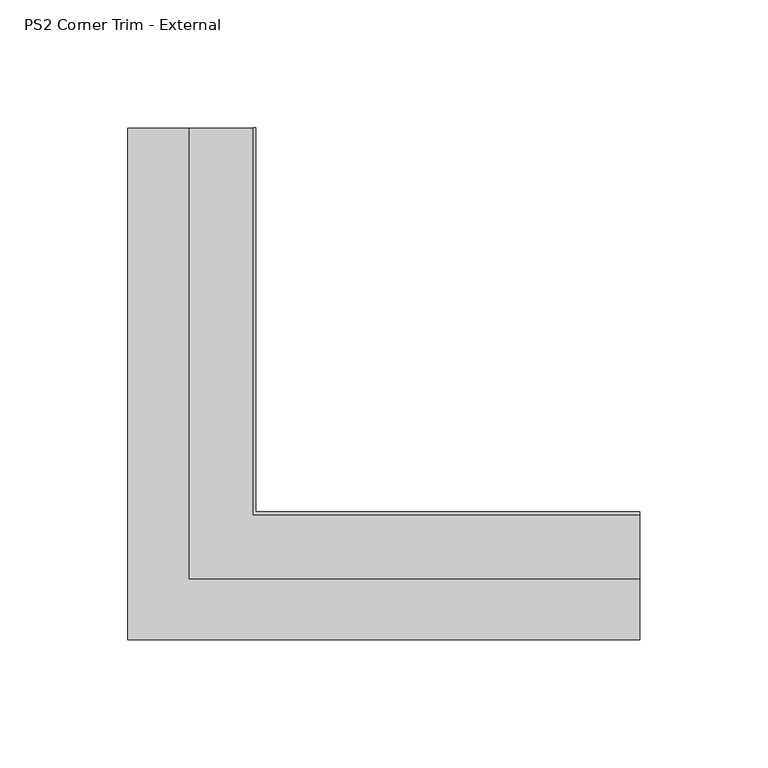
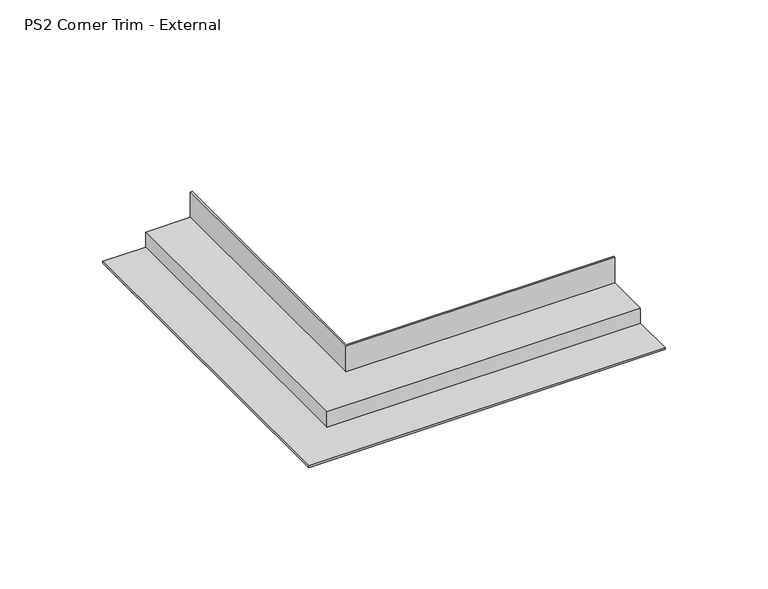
"""IFC4 building model written with IfcOpenShell, lengths in millimetres: proxy geometry, PS2 Corner Trim - External : Pelican Systems Plaster Trim 25 x 20."""

from ifc_helpers import new_model, si_unit, origin, place, context, project, spatial, faceted_brep, source, transform, mapped, element, save


def ps2_corner_trim_external_86b60009(model_context):
    return source(origin(), model_context, "Body", "Brep", [
        faceted_brep([(30.0, 180.0, 16.0), (30.0, 180.0, 0.0), (5.0, 180.0, 0.0), (5.0, 180.0, -20.0), (4.0, 180.0, -20.0), (4.0, 180.0, -9.0), (-20.0, 180.0, -9.0), (-20.0, 180.0, -8.0), (4.0, 180.0, -8.0), (4.0, 180.0, 1.0), (29.0, 180.0, 1.0), (29.0, 180.0, 16.0), (180.0, 30.0, 16.0), (180.0, 29.0, 16.0), (180.0, 29.0, 1.0), (180.0, 4.0, 1.0), (180.0, 4.0, -8.0), (180.0, -20.0, -8.0), (180.0, -20.0, -9.0), (180.0, 4.0, -9.0), (180.0, 4.0, -20.0), (180.0, 5.0, -20.0), (180.0, 5.0, 0.0), (180.0, 30.0, 0.0), (30.0, 30.0, 0.0), (30.0, 30.0, 16.0), (5.0, 5.0, -20.0), (5.0, 5.0, 0.0), (4.0, 4.0, 1.0), (4.0, 4.0, -8.0), (29.0, 29.0, 16.0), (29.0, 29.0, 1.0), (4.0, 4.0, -9.0), (4.0, 4.0, -20.0), (-20.0, -20.0, -8.0), (-20.0, -20.0, -9.0)], [[[0, 1, 2, 3, 4, 5, 6, 7, 8, 9, 10, 11]], [[12, 13, 14, 15, 16, 17, 18, 19, 20, 21, 22, 23]], [[24, 25, 12, 23]], [[26, 27, 22, 21]], [[28, 29, 16, 15]], [[30, 31, 14, 13]], [[32, 33, 20, 19]], [[34, 35, 18, 17]], [[1, 0, 25, 24]], [[2, 1, 24, 23, 22, 27]], [[3, 2, 27, 26]], [[4, 3, 26, 21, 20, 33]], [[5, 4, 33, 32]], [[6, 5, 32, 19, 18, 35]], [[7, 6, 35, 34]], [[8, 7, 34, 17, 16, 29]], [[9, 8, 29, 28]], [[10, 9, 28, 15, 14, 31]], [[11, 10, 31, 30]], [[0, 11, 30, 13, 12, 25]]]),
    ])


if __name__ == "__main__":
    model = new_model("IFC4")
    model_context = context("Model", 3, world=origin())
    ifc_project = project(units=[si_unit("LENGTHUNIT", "METRE", prefix="MILLI")], contexts=[model_context])
    site = spatial("IfcSite", under=ifc_project)
    building = spatial("IfcBuilding", under=site)
    placement = place(None, origin())
    ps2_corner_trim_external_shape = ps2_corner_trim_external_86b60009(model_context)
    element("IfcBuildingElementProxy", 1, Name="PS2 Corner Trim - External : Pelican Systems Plaster Trim 25 x 20", ObjectType="PS2 Corner Trim - External : Pelican Systems Plaster Trim 25 x 20", at=placement, inside=building, context=model_context, shape_type="MappedRepresentation", body=[
        mapped(ps2_corner_trim_external_shape, transform((0.0, 0.0, 0.0), x_axis=(1.0, 0.0, 0.0), y_axis=(0.0, 1.0, 0.0), z_axis=(0.0, 0.0, 1.0))),
    ])
    save(model, "model.ifc")
